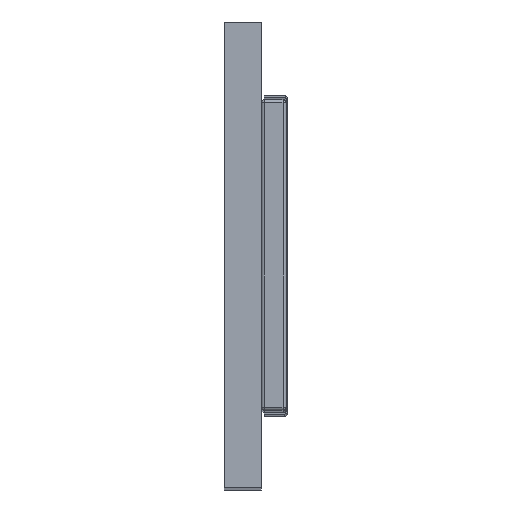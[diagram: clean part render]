
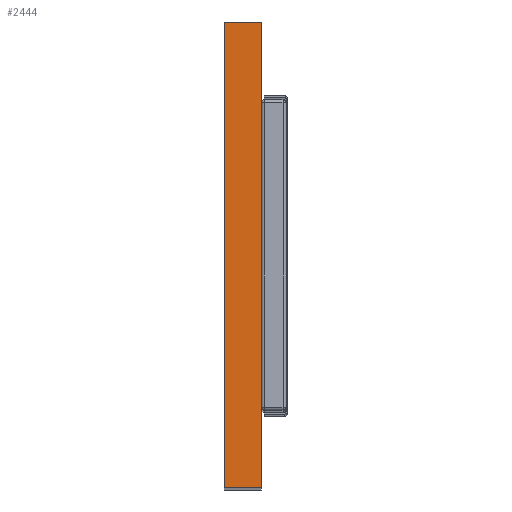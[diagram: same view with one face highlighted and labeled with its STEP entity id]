
A CAD part, top view. The second image highlights one B-rep face of the part: STEP entity #2444.
In plain terms, the highlighted planar face has unit normal (0, 0, 1).
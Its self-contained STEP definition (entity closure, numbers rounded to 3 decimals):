
#75 = LINE ( 'NONE', #1857, #2263 ) ;
#175 = EDGE_CURVE ( 'NONE', #378, #2058, #75, .T. ) ;
#210 = EDGE_LOOP ( 'NONE', ( #1641, #1965, #3034, #2097 ) ) ;
#227 = CARTESIAN_POINT ( 'NONE',  ( 0., 0., 192. ) ) ;
#371 = VECTOR ( 'NONE', #901, 1000. ) ;
#378 = VERTEX_POINT ( 'NONE', #1440 ) ;
#405 = DIRECTION ( 'NONE',  ( 0., 1., 0. ) ) ;
#412 = DIRECTION ( 'NONE',  ( -1., 0., 0. ) ) ;
#711 = VECTOR ( 'NONE', #405, 1000. ) ;
#834 = CARTESIAN_POINT ( 'NONE',  ( 6., 0., 192. ) ) ;
#901 = DIRECTION ( 'NONE',  ( 1., 0., 0. ) ) ;
#946 = VERTEX_POINT ( 'NONE', #834 ) ;
#1140 = LINE ( 'NONE', #1755, #371 ) ;
#1144 = DIRECTION ( 'NONE',  ( 0., 0., -1. ) ) ;
#1362 = AXIS2_PLACEMENT_3D ( 'NONE', #2842, #1144, #3121 ) ;
#1440 = CARTESIAN_POINT ( 'NONE',  ( 6., 75., 192. ) ) ;
#1586 = VECTOR ( 'NONE', #3695, 1000. ) ;
#1641 = ORIENTED_EDGE ( 'NONE', *, *, #2767, .T. ) ;
#1755 = CARTESIAN_POINT ( 'NONE',  ( 0., 0., 192. ) ) ;
#1857 = CARTESIAN_POINT ( 'NONE',  ( 0., 75., 192. ) ) ;
#1965 = ORIENTED_EDGE ( 'NONE', *, *, #2386, .T. ) ;
#2058 = VERTEX_POINT ( 'NONE', #2098 ) ;
#2097 = ORIENTED_EDGE ( 'NONE', *, *, #175, .T. ) ;
#2098 = CARTESIAN_POINT ( 'NONE',  ( 0., 75., 192. ) ) ;
#2263 = VECTOR ( 'NONE', #412, 1000. ) ;
#2287 = CARTESIAN_POINT ( 'NONE',  ( 0., 0., 192. ) ) ;
#2315 = LINE ( 'NONE', #3237, #711 ) ;
#2317 = VERTEX_POINT ( 'NONE', #227 ) ;
#2338 = PLANE ( 'NONE',  #1362 ) ;
#2339 = LINE ( 'NONE', #2287, #1586 ) ;
#2386 = EDGE_CURVE ( 'NONE', #2317, #946, #1140, .T. ) ;
#2444 = ADVANCED_FACE ( 'NONE', ( #2556 ), #2338, .F. ) ;
#2556 = FACE_OUTER_BOUND ( 'NONE', #210, .T. ) ;
#2767 = EDGE_CURVE ( 'NONE', #2058, #2317, #2339, .T. ) ;
#2842 = CARTESIAN_POINT ( 'NONE',  ( 0., 0., 192. ) ) ;
#3034 = ORIENTED_EDGE ( 'NONE', *, *, #3599, .T. ) ;
#3121 = DIRECTION ( 'NONE',  ( -1., 0., 0. ) ) ;
#3237 = CARTESIAN_POINT ( 'NONE',  ( 6., 0., 192. ) ) ;
#3599 = EDGE_CURVE ( 'NONE', #946, #378, #2315, .T. ) ;
#3695 = DIRECTION ( 'NONE',  ( 0., -1., 0. ) ) ;
